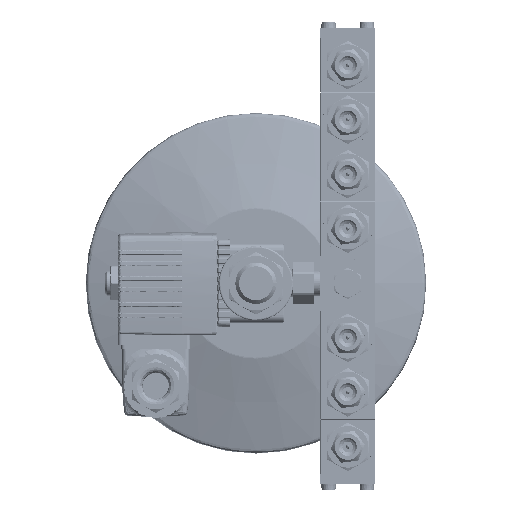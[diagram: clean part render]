
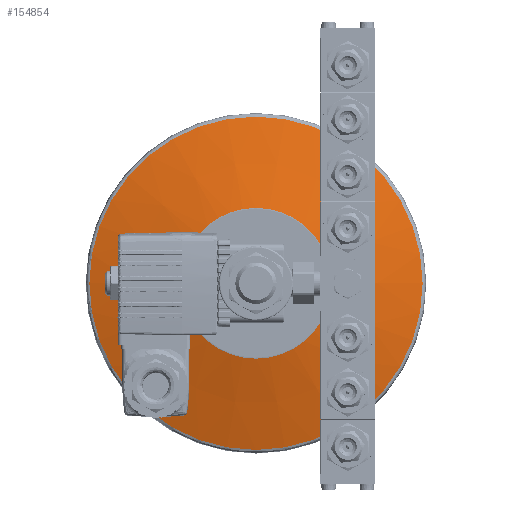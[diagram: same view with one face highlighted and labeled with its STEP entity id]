
A CAD part, left-side view. The second image highlights one B-rep face of the part: STEP entity #154854.
In plain terms, the highlighted conical face has half-angle 75.534 degrees and reference radius 67.225 mm.
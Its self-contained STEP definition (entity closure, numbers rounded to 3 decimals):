
#49952 = DIRECTION ( 'NONE',  ( 0., -1., 0. ) ) ;
#63978 = EDGE_LOOP ( 'NONE', ( #279625 ) ) ;
#69234 = AXIS2_PLACEMENT_3D ( 'NONE', #147584, #175287, #49952 ) ;
#77232 = DIRECTION ( 'NONE',  ( 0., 0., -1. ) ) ;
#96737 = DIRECTION ( 'NONE',  ( 0., -1., 0. ) ) ;
#101671 = FACE_BOUND ( 'NONE', #63978, .T. ) ;
#102887 = VERTEX_POINT ( 'NONE', #226646 ) ;
#103276 = DIRECTION ( 'NONE',  ( 1., 0., 0. ) ) ;
#111487 = EDGE_CURVE ( 'NONE', #195780, #195780, #313638, .T. ) ;
#136773 = AXIS2_PLACEMENT_3D ( 'NONE', #272650, #103276, #77232 ) ;
#147584 = CARTESIAN_POINT ( 'NONE',  ( 73.454, 0., 0. ) ) ;
#150481 = EDGE_CURVE ( 'NONE', #102887, #102887, #302718, .T. ) ;
#154854 = ADVANCED_FACE ( 'NONE', ( #175011, #101671 ), #302890, .T. ) ;
#168404 = DIRECTION ( 'NONE',  ( -1., 0., 0. ) ) ;
#175011 = FACE_OUTER_BOUND ( 'NONE', #206985, .T. ) ;
#175287 = DIRECTION ( 'NONE',  ( 1., 0., 0. ) ) ;
#175852 = ORIENTED_EDGE ( 'NONE', *, *, #150481, .T. ) ;
#195780 = VERTEX_POINT ( 'NONE', #293455 ) ;
#198640 = AXIS2_PLACEMENT_3D ( 'NONE', #318061, #168404, #96737 ) ;
#206985 = EDGE_LOOP ( 'NONE', ( #175852 ) ) ;
#226646 = CARTESIAN_POINT ( 'NONE',  ( 82.948, -67.225, 0. ) ) ;
#272650 = CARTESIAN_POINT ( 'NONE',  ( 82.948, 0., 0. ) ) ;
#279625 = ORIENTED_EDGE ( 'NONE', *, *, #111487, .T. ) ;
#293455 = CARTESIAN_POINT ( 'NONE',  ( 73.454, -30.425, 0. ) ) ;
#302718 = CIRCLE ( 'NONE', #198640, 67.225 ) ;
#302890 = CONICAL_SURFACE ( 'NONE', #136773, 67.225, 1.318 ) ;
#313638 = CIRCLE ( 'NONE', #69234, 30.425 ) ;
#318061 = CARTESIAN_POINT ( 'NONE',  ( 82.948, 0., 0. ) ) ;
